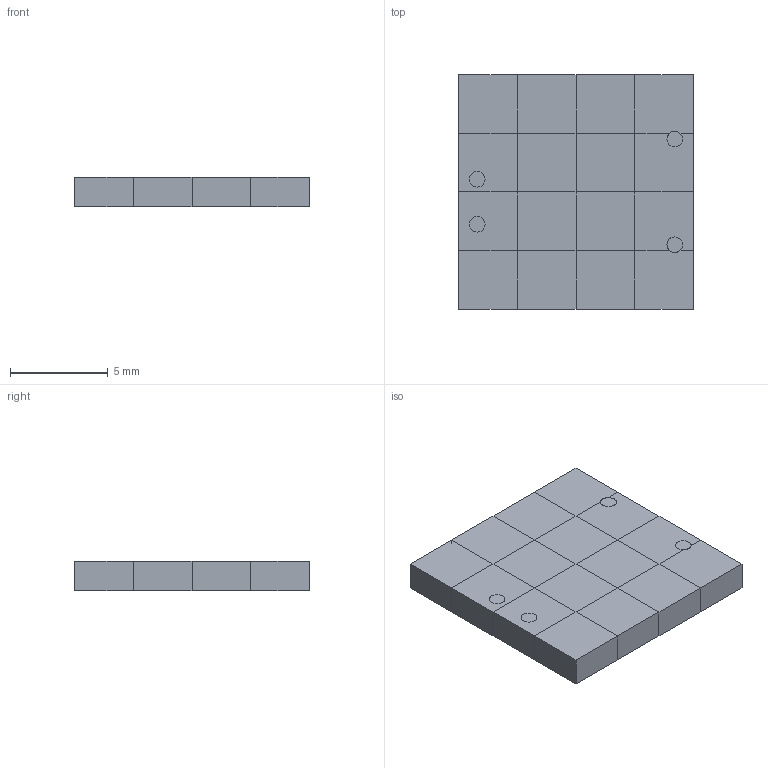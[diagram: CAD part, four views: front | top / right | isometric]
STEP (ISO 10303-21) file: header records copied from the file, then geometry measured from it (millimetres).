
FILE_DESCRIPTION(('Open CASCADE Model'),'2;1');
FILE_NAME('Open CASCADE Shape Model','2026-11-27T10:08:15',('Author'),( 'Open CASCADE'),'Open CASCADE STEP processor 7.9','Open CASCADE 7.9' ,'Unknown');
FILE_SCHEMA(('AUTOMOTIVE_DESIGN { 1 0 10303 214 1 1 1 1 }'));
Length unit declared in the file: millimetre
Products named in the file (3): manifold_N15; fluid; solid
Assembly tree (2 placements, depth 2):
  manifold_N15
    fluid
    solid
Bounding box: 12 x 12 x 1.5 mm (x, y, z)
Volume: 216 mm3; surface area: 1347.8 mm2
Topology: 2 solids, 2 shells, 946 faces, 3136 edges, 1802 vertices
Faces by surface type: plane 938, cylinder 8
Full cylindrical faces by diameter (mm): 0.8 x8
Entity records: 74288 total; most frequent: CARTESIAN_POINT 13213, DIRECTION 11080, LINE 8874, VECTOR 8874, ORIENTED_EDGE 6272, PCURVE 6272, DEFINITIONAL_REPRESENTATION 6272, EDGE_CURVE 3136
